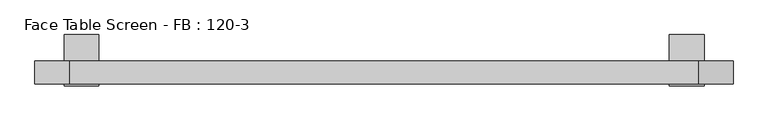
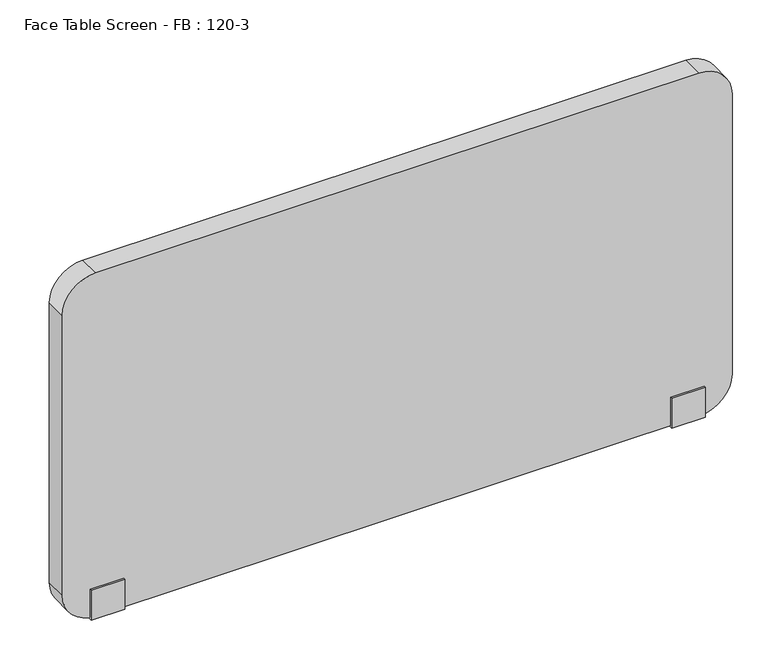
"""IFC4 building model written with IfcOpenShell, lengths in millimetres: furniture geometry, Face Table Screen - FB : 120-3."""

from ifc_helpers import new_model, si_unit, point, frame, frame_2d, origin, place, context, project, spatial, polyline, circle_curve, trimmed, segment, composite_curve, outline, extrude, source, transform, mapped, element, save


def face_table_screen_fb_120_3_d1688900(model_context):
    return source(origin(), model_context, "Body", "SweptSolid", [
        extrude(outline(polyline([(-42.9999947, -156.0), (-42.9999997, -99.0433898), (-40.0, -99.0433898), (-40.0, -153.0), (0.0, -153.0), (0.0, -22.0), (45.0, -22.0), (45.0, -25.0433898), (3.0000062, -25.0433898), (2.9999947, -156.0), (-42.9999947, -156.0)])), frame((509.9863751, 0.0, 0.0), z_axis=(1.0, 0.0, 0.0), x_axis=(0.0, 1.0, 0.0)), (0.0, 0.0, 1.0), 60.0),
        extrude(outline(polyline([(-42.9999947, -156.0), (-42.9999997, -99.0433898), (-40.0, -99.0433898), (-40.0, -153.0), (0.0, -153.0), (0.0, -22.0), (45.0, -22.0), (45.0, -25.0433898), (3.0000062, -25.0433898), (2.9999947, -156.0), (-42.9999947, -156.0)])), frame((-530.0136249, 0.0, 0.0), z_axis=(1.0, 0.0, 0.0), x_axis=(0.0, 1.0, 0.0)), (0.0, 0.0, 1.0), 60.0),
        extrude(outline(composite_curve([segment(polyline([(497.0, 559.9863751), (497.0, -520.0136249)]), True, "CONTINUOUS"), segment(trimmed(circle_curve(frame_2d((437.0, -520.0136249)), 60.0), [point((497.0, -520.0136249))], [point((437.0, -580.0136249))], False, "CARTESIAN"), True, "CONTINUOUS"), segment(polyline([(437.0, -580.0136249), (-93.0, -580.0136249)]), True, "CONTINUOUS"), segment(trimmed(circle_curve(frame_2d((-93.0, -520.0136249)), 60.0), [point((-93.0, -580.0136249))], [point((-153.0, -520.0136249))], False, "CARTESIAN"), True, "CONTINUOUS"), segment(polyline([(-153.0, -520.0136249), (-153.0, 559.9863751)]), True, "CONTINUOUS"), segment(trimmed(circle_curve(frame_2d((-93.0, 559.9863751)), 60.0), [point((-153.0, 559.9863751))], [point((-93.0, 619.9863751))], False, "CARTESIAN"), True, "CONTINUOUS"), segment(polyline([(-93.0, 619.9863751), (437.0, 619.9863751)]), True, "CONTINUOUS"), segment(trimmed(circle_curve(frame_2d((437.0, 559.9863751)), 60.0), [point((437.0, 619.9863751))], [point((497.0, 559.9863751))], False, "CARTESIAN"), True, "CONTINUOUS")], self_intersect=False)), frame((0.0, -40.0, 0.0), z_axis=(0.0, 1.0, 0.0), x_axis=(0.0, 0.0, 1.0)), (0.0, 0.0, 1.0), 40.0),
    ])


if __name__ == "__main__":
    model = new_model("IFC4")
    model_context = context("Model", 3, world=origin())
    ifc_project = project(units=[si_unit("LENGTHUNIT", "METRE", prefix="MILLI")], contexts=[model_context])
    site = spatial("IfcSite", under=ifc_project)
    building = spatial("IfcBuilding", under=site)
    placement = place(None, origin())
    face_table_screen_fb_120_3_shape = face_table_screen_fb_120_3_d1688900(model_context)
    element("IfcFurniture", 1, ObjectType="Face Table Screen - FB : 120-3", at=placement, inside=building, context=model_context, shape_type="MappedRepresentation", body=[
        mapped(face_table_screen_fb_120_3_shape, transform((0.0, 0.0, 0.0), x_axis=(1.0, 0.0, 0.0), y_axis=(0.0, 1.0, 0.0), z_axis=(0.0, 0.0, 1.0))),
    ])
    save(model, "model.ifc")
